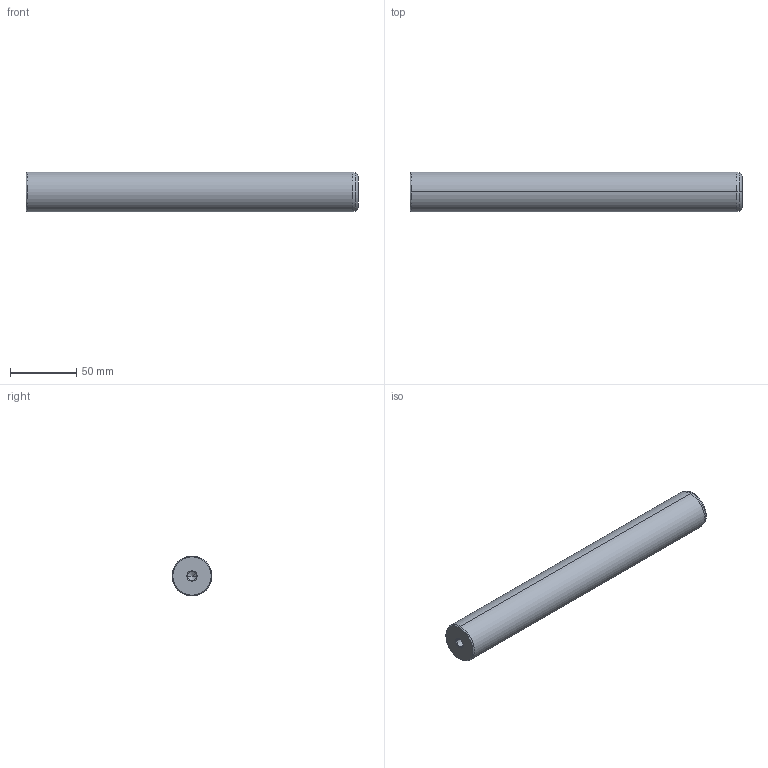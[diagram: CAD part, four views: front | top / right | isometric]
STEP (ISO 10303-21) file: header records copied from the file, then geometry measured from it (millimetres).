
FILE_DESCRIPTION(('CATIA V5 STEP Exchange'),'2;1');
FILE_NAME('C:\Users\Utente\Desktop\IO LAVORO\3D X SITO CF\X SITO\720\720-30x250.stp','2021-01-01T12:30:11+00:00',('none'),('none'),'CATIA Version 5 Release 20 GA (IN-10)','CATIA V5 STEP AP203','none');
FILE_SCHEMA(('CONFIG_CONTROL_DESIGN'));
Length unit declared in the file: millimetre
Products named in the file (1): 720-30x250
Bounding box: 250 x 30 x 30 mm (x, y, z)
Volume: 174683.7 mm3; surface area: 25772.7 mm2
Topology: 1 solids, 1 shells, 22 faces, 56 edges, 34 vertices
Faces by surface type: cone 12, cylinder 6, plane 2, torus 2
Entity records: 755 total; most frequent: CARTESIAN_POINT 216, ORIENTED_EDGE 104, DIRECTION 89, EDGE_CURVE 52, AXIS2_PLACEMENT_3D 50, VERTEX_POINT 34, CIRCLE 27, EDGE_LOOP 24
